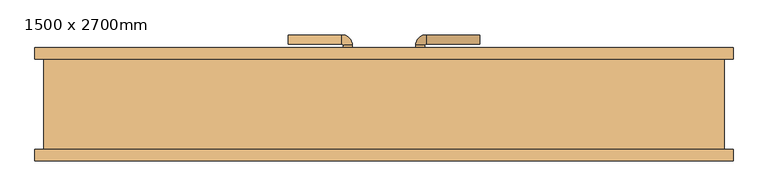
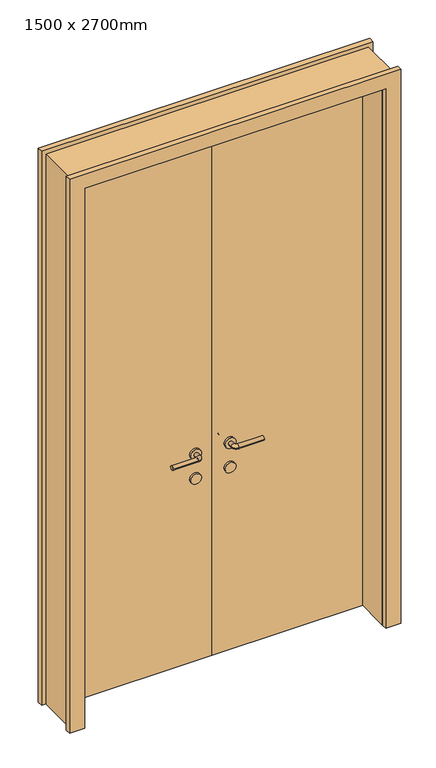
"""IFC4 building model written with IfcOpenShell, lengths in millimetres: door geometry, 双面嵌板木门 1 : 1500 x 2700mm."""

from ifc_helpers import new_model, si_unit, point, frame, frame_2d, origin, origin_with_axes, place, context, project, spatial, polyline, circle_curve, ellipse_curve, trimmed, segment, composite_curve, outline, extrude, source, transform, mapped, element, save
from ifc_brep_helpers import plane_surface, cylinder_surface, revolved_surface, advanced_brep


def door_1500_x_2700mm_f4b82eac(model_context):
    return source(origin(), model_context, "Body", "SolidModel", [
        extrude(outline(composite_curve([segment(trimmed(circle_curve(frame_2d((900.0, 80.0)), 25.0), [point((900.0, 105.0))], [point((900.0, 55.0))], False, "CARTESIAN"), True, "CONTINUOUS"), segment(trimmed(circle_curve(frame_2d((900.0, 80.0)), 25.0), [point((900.0, 55.0))], [point((900.0, 105.0))], False, "CARTESIAN"), True, "CONTINUOUS")], self_intersect=False)), frame((0.0, 100.0, 0.0), z_axis=(0.0, 1.0, 0.0), x_axis=(0.0, 0.0, 1.0)), (0.0, 0.0, 1.0), 10.0),
        extrude(outline(composite_curve([segment(trimmed(circle_curve(frame_2d((900.0, 80.0)), 25.0), [point((900.0, 105.0))], [point((900.0, 55.0))], False, "CARTESIAN"), True, "CONTINUOUS"), segment(trimmed(circle_curve(frame_2d((900.0, 80.0)), 25.0), [point((900.0, 55.0))], [point((900.0, 105.0))], False, "CARTESIAN"), True, "CONTINUOUS")], self_intersect=False)), frame((0.0, 50.0, 0.0), z_axis=(0.0, 1.0, 0.0), x_axis=(0.0, 0.0, 1.0)), (0.0, 0.0, 1.0), 10.0),
        advanced_brep(
        [(70.0, 110.0, 1020.0), (90.0, 110.0, 1020.0), (70.0, 130.6133551, 1020.0), (90.0, 130.6133551, 1020.0), (211.580964, 153.580964, 1020.0), (211.580964, 133.580964, 1020.0), (92.9676089, 133.580964, 1020.0), (92.9676089, 153.580964, 1020.0)],
        [
            (0, 1, circle_curve(frame((80.0, 110.0, 1020.0), z_axis=(0.0, -1.0, 0.0), x_axis=(1.0, 0.0, 0.0)), 10.0)),
            (1, 0, circle_curve(frame((80.0, 110.0, 1020.0), z_axis=(0.0, -1.0, 0.0), x_axis=(1.0, 0.0, 0.0)), 10.0)),
            (0, 2),
            (2, 3, circle_curve(frame((80.0, 130.6133551, 1020.0), z_axis=(0.0, -1.0, 0.0), x_axis=(1.0, 0.0, 0.0)), 10.0)),
            (3, 1),
            (3, 2, circle_curve(frame((80.0, 130.6133551, 1020.0), z_axis=(0.0, -1.0, 0.0), x_axis=(1.0, 0.0, 0.0)), 10.0)),
            (4, 5, circle_curve(frame((211.580964, 143.580964, 1020.0), z_axis=(1.0, 0.0, 0.0), x_axis=(0.0, -1.0, 0.0)), 10.0)),
            (5, 4, circle_curve(frame((211.580964, 143.580964, 1020.0), z_axis=(1.0, 0.0, 0.0), x_axis=(0.0, -1.0, 0.0)), 10.0)),
            (6, 7, circle_curve(frame((92.9676089, 143.580964, 1020.0), z_axis=(-1.0, 0.0, 0.0), x_axis=(0.0, -1.0, 0.0)), 10.0)),
            (7, 2, circle_curve(frame((92.9676089, 130.6133551, 1020.0), z_axis=(0.0, 0.0, 1.0), x_axis=(-1.0, 0.0, 0.0)), 22.9676089)),
            (3, 6, circle_curve(frame((92.9676089, 130.6133551, 1020.0), z_axis=(0.0, 0.0, -1.0), x_axis=(-1.0, 0.0, 0.0)), 2.9676089)),
            (7, 6, circle_curve(frame((92.9676089, 143.580964, 1020.0), z_axis=(-1.0, 0.0, 0.0), x_axis=(0.0, -1.0, 0.0)), 10.0)),
            (6, 5),
            (4, 7),
        ],
        [
            plane_surface(frame((80.0, 110.0, 900.0), z_axis=(0.0, -1.0, 0.0), x_axis=(0.0, 0.0, 1.0))),
            cylinder_surface(frame((80.0, 110.0, 1020.0), z_axis=(0.0, -1.0, 0.0), x_axis=(1.0, 0.0, 0.0)), 10.0),
            plane_surface(frame((211.580964, 143.580964, 900.0), z_axis=(1.0, 0.0, 0.0), x_axis=(0.0, 0.0, 1.0))),
            revolved_surface(trimmed(ellipse_curve(frame((80.0, 130.6133551, 1020.0), z_axis=(0.0, 1.0, 0.0), x_axis=(1.0, 0.0, 0.0)), 10.0, 10.0), [point((70.0, 130.6133551, 1020.0))], [point((90.0, 130.6133551, 1020.0))], True, "CARTESIAN"), (92.9676089, 130.6133551, 900.0), (0.0, 0.0, 1.0)),
            revolved_surface(trimmed(ellipse_curve(frame((80.0, 130.6133551, 1020.0), z_axis=(0.0, 1.0, 0.0), x_axis=(1.0, 0.0, 0.0)), 10.0, 10.0), [point((90.0, 130.6133551, 1020.0))], [point((70.0, 130.6133551, 1020.0))], True, "CARTESIAN"), (92.9676089, 130.6133551, 900.0), (0.0, 0.0, 1.0)),
            cylinder_surface(frame((92.9676089, 143.580964, 1020.0), z_axis=(-1.0, 0.0, 0.0), x_axis=(0.0, -1.0, 0.0)), 10.0),
        ],
        [
            (0, [[1, 2]]),
            (1, [[3, 4, 5, -1]]),
            (1, [[-5, 6, -3, -2]]),
            (2, [[7, 8]]),
            (3, [[9, 10, -6, 11]]),
            (4, [[12, -11, -4, -10]]),
            (5, [[13, -7, 14, -9]]),
            (5, [[-14, -8, -13, -12]]),
        ],
    ),
        extrude(outline(composite_curve([segment(trimmed(circle_curve(frame_2d((1020.0, 80.0)), 25.0), [point((1020.0, 105.0))], [point((1020.0, 55.0))], False, "CARTESIAN"), True, "CONTINUOUS"), segment(trimmed(circle_curve(frame_2d((1020.0, 80.0)), 25.0), [point((1020.0, 55.0))], [point((1020.0, 105.0))], False, "CARTESIAN"), True, "CONTINUOUS")], self_intersect=False)), frame((0.0, 100.0, 0.0), z_axis=(0.0, 1.0, 0.0), x_axis=(0.0, 0.0, 1.0)), (0.0, 0.0, 1.0), 10.0),
        advanced_brep(
        [(90.0, 50.0, 1020.0), (70.0, 50.0, 1020.0), (70.0, 29.386645, 1020.0), (90.0, 29.386645, 1020.0), (211.580964, 26.419036, 1020.0), (211.580964, 6.419036, 1020.0), (92.9676089, 6.419036, 1020.0), (92.9676089, 26.419036, 1020.0)],
        [
            (0, 1, circle_curve(frame((80.0, 50.0, 1020.0), z_axis=(0.0, 1.0, 0.0), x_axis=(-1.0, 0.0, 0.0)), 10.0)),
            (1, 0, circle_curve(frame((80.0, 50.0, 1020.0), z_axis=(0.0, 1.0, 0.0), x_axis=(-1.0, 0.0, 0.0)), 10.0)),
            (1, 2),
            (2, 3, circle_curve(frame((80.0, 29.386645, 1020.0), z_axis=(0.0, 1.0, 0.0), x_axis=(-1.0, 0.0, 0.0)), 10.0)),
            (3, 0),
            (3, 2, circle_curve(frame((80.0, 29.386645, 1020.0), z_axis=(0.0, 1.0, 0.0), x_axis=(-1.0, 0.0, 0.0)), 10.0)),
            (4, 5, circle_curve(frame((211.580964, 16.419036, 1020.0), z_axis=(1.0, 0.0, 0.0), x_axis=(0.0, -1.0, 0.0)), 10.0)),
            (5, 4, circle_curve(frame((211.580964, 16.419036, 1020.0), z_axis=(1.0, 0.0, 0.0), x_axis=(0.0, -1.0, 0.0)), 10.0)),
            (6, 7, circle_curve(frame((92.9676089, 16.419036, 1020.0), z_axis=(-1.0, 0.0, 0.0), x_axis=(0.0, -1.0, 0.0)), 10.0)),
            (7, 3, circle_curve(frame((92.9676089, 29.386645, 1020.0), z_axis=(0.0, 0.0, -1.0), x_axis=(-1.0, 0.0, 0.0)), 2.9676089)),
            (2, 6, circle_curve(frame((92.9676089, 29.386645, 1020.0), z_axis=(0.0, 0.0, 1.0), x_axis=(-1.0, 0.0, 0.0)), 22.9676089)),
            (7, 6, circle_curve(frame((92.9676089, 16.419036, 1020.0), z_axis=(-1.0, 0.0, 0.0), x_axis=(0.0, -1.0, 0.0)), 10.0)),
            (6, 5),
            (4, 7),
        ],
        [
            plane_surface(frame((80.0, 50.0, 900.0), z_axis=(0.0, 1.0, 0.0), x_axis=(0.0, 0.0, 1.0))),
            cylinder_surface(frame((80.0, 50.0, 1020.0), z_axis=(0.0, 1.0, 0.0), x_axis=(-1.0, 0.0, 0.0)), 10.0),
            plane_surface(frame((211.580964, 16.419036, 900.0), z_axis=(1.0, 0.0, 0.0), x_axis=(0.0, 0.0, 1.0))),
            revolved_surface(trimmed(ellipse_curve(frame((80.0, 29.386645, 1020.0), z_axis=(0.0, -1.0, 0.0), x_axis=(-1.0, 0.0, 0.0)), 10.0, 10.0), [point((90.0, 29.386645, 1020.0))], [point((70.0, 29.386645, 1020.0))], True, "CARTESIAN"), (92.9676089, 29.386645, 900.0), (0.0, 0.0, -1.0)),
            revolved_surface(trimmed(ellipse_curve(frame((80.0, 29.386645, 1020.0), z_axis=(0.0, -1.0, 0.0), x_axis=(-1.0, 0.0, 0.0)), 10.0, 10.0), [point((70.0, 29.386645, 1020.0))], [point((90.0, 29.386645, 1020.0))], True, "CARTESIAN"), (92.9676089, 29.386645, 900.0), (0.0, 0.0, -1.0)),
            cylinder_surface(frame((92.9676089, 16.419036, 1020.0), z_axis=(-1.0, 0.0, 0.0), x_axis=(0.0, -1.0, 0.0)), 10.0),
        ],
        [
            (0, [[1, 2]]),
            (1, [[3, 4, 5, -2]]),
            (1, [[-5, 6, -3, -1]]),
            (2, [[7, 8]]),
            (3, [[9, 10, -4, 11]]),
            (4, [[12, -11, -6, -10]]),
            (5, [[13, -7, 14, -9]]),
            (5, [[-14, -8, -13, -12]]),
        ],
    ),
        extrude(outline(composite_curve([segment(trimmed(circle_curve(frame_2d((1020.0, 80.0)), 25.0), [point((1020.0, 105.0))], [point((1020.0, 55.0))], False, "CARTESIAN"), True, "CONTINUOUS"), segment(trimmed(circle_curve(frame_2d((1020.0, 80.0)), 25.0), [point((1020.0, 55.0))], [point((1020.0, 105.0))], False, "CARTESIAN"), True, "CONTINUOUS")], self_intersect=False)), frame((0.0, 50.0, 0.0), z_axis=(0.0, 1.0, 0.0), x_axis=(0.0, 0.0, 1.0)), (0.0, 0.0, 1.0), 10.0),
        extrude(outline(composite_curve([segment(trimmed(circle_curve(frame_2d((900.0, -80.0)), 25.0), [point((900.0, -105.0))], [point((900.0, -55.0))], False, "CARTESIAN"), True, "CONTINUOUS"), segment(trimmed(circle_curve(frame_2d((900.0, -80.0)), 25.0), [point((900.0, -55.0))], [point((900.0, -105.0))], False, "CARTESIAN"), True, "CONTINUOUS")], self_intersect=False)), frame((0.0, 100.0, 0.0), z_axis=(0.0, 1.0, 0.0), x_axis=(0.0, 0.0, 1.0)), (0.0, 0.0, 1.0), 10.0),
        extrude(outline(composite_curve([segment(trimmed(circle_curve(frame_2d((900.0, -80.0)), 25.0), [point((900.0, -105.0))], [point((900.0, -55.0))], False, "CARTESIAN"), True, "CONTINUOUS"), segment(trimmed(circle_curve(frame_2d((900.0, -80.0)), 25.0), [point((900.0, -55.0))], [point((900.0, -105.0))], False, "CARTESIAN"), True, "CONTINUOUS")], self_intersect=False)), frame((0.0, 50.0, 0.0), z_axis=(0.0, 1.0, 0.0), x_axis=(0.0, 0.0, 1.0)), (0.0, 0.0, 1.0), 10.0),
        advanced_brep(
        [(-70.0, 110.0, 1020.0), (-90.0, 110.0, 1020.0), (-90.0, 130.6133551, 1020.0), (-70.0, 130.6133551, 1020.0), (-211.580964, 153.580964, 1020.0), (-211.580964, 133.580964, 1020.0), (-92.9676089, 133.580964, 1020.0), (-92.9676089, 153.580964, 1020.0)],
        [
            (0, 1, circle_curve(frame((-80.0, 110.0, 1020.0), z_axis=(0.0, -1.0, 0.0), x_axis=(-1.0, 0.0, 0.0)), 10.0)),
            (1, 0, circle_curve(frame((-80.0, 110.0, 1020.0), z_axis=(0.0, -1.0, 0.0), x_axis=(-1.0, 0.0, 0.0)), 10.0)),
            (1, 2),
            (2, 3, circle_curve(frame((-80.0, 130.6133551, 1020.0), z_axis=(0.0, -1.0, 0.0), x_axis=(-1.0, 0.0, 0.0)), 10.0)),
            (3, 0),
            (3, 2, circle_curve(frame((-80.0, 130.6133551, 1020.0), z_axis=(0.0, -1.0, 0.0), x_axis=(-1.0, 0.0, 0.0)), 10.0)),
            (4, 5, circle_curve(frame((-211.580964, 143.580964, 1020.0), z_axis=(-1.0, 0.0, 0.0), x_axis=(0.0, -1.0, 0.0)), 10.0)),
            (5, 4, circle_curve(frame((-211.580964, 143.580964, 1020.0), z_axis=(-1.0, 0.0, 0.0), x_axis=(0.0, -1.0, 0.0)), 10.0)),
            (6, 2, circle_curve(frame((-92.9676089, 130.6133551, 1020.0), z_axis=(0.0, 0.0, -1.0), x_axis=(1.0, 0.0, 0.0)), 2.9676089)),
            (3, 7, circle_curve(frame((-92.9676089, 130.6133551, 1020.0), z_axis=(0.0, 0.0, 1.0), x_axis=(1.0, 0.0, 0.0)), 22.9676089)),
            (7, 6, circle_curve(frame((-92.9676089, 143.580964, 1020.0), z_axis=(1.0, 0.0, 0.0), x_axis=(0.0, -1.0, 0.0)), 10.0)),
            (6, 7, circle_curve(frame((-92.9676089, 143.580964, 1020.0), z_axis=(1.0, 0.0, 0.0), x_axis=(0.0, -1.0, 0.0)), 10.0)),
            (7, 4),
            (5, 6),
        ],
        [
            plane_surface(frame((-80.0, 110.0, 900.0), z_axis=(0.0, -1.0, 0.0), x_axis=(0.0, 0.0, 1.0))),
            cylinder_surface(frame((-80.0, 110.0, 1020.0), z_axis=(0.0, -1.0, 0.0), x_axis=(-1.0, 0.0, 0.0)), 10.0),
            plane_surface(frame((-211.580964, 143.580964, 900.0), z_axis=(-1.0, 0.0, 0.0), x_axis=(0.0, 0.0, 1.0))),
            revolved_surface(trimmed(ellipse_curve(frame((-80.0, 130.6133551, 1020.0), z_axis=(0.0, -1.0, 0.0), x_axis=(-1.0, 0.0, 0.0)), 10.0, 10.0), [point((-70.0, 130.6133551, 1020.0))], [point((-90.0, 130.6133551, 1020.0))], True, "CARTESIAN"), (-92.9676089, 130.6133551, 900.0), (0.0, 0.0, 1.0)),
            revolved_surface(trimmed(ellipse_curve(frame((-80.0, 130.6133551, 1020.0), z_axis=(0.0, -1.0, 0.0), x_axis=(-1.0, 0.0, 0.0)), 10.0, 10.0), [point((-90.0, 130.6133551, 1020.0))], [point((-70.0, 130.6133551, 1020.0))], True, "CARTESIAN"), (-92.9676089, 130.6133551, 900.0), (0.0, 0.0, 1.0)),
            cylinder_surface(frame((-92.9676089, 143.580964, 1020.0), z_axis=(1.0, 0.0, 0.0), x_axis=(0.0, -1.0, 0.0)), 10.0),
        ],
        [
            (0, [[1, 2]]),
            (1, [[-2, 3, 4, 5]]),
            (1, [[-1, -5, 6, -3]]),
            (2, [[7, 8]]),
            (3, [[9, -6, 10, 11]]),
            (4, [[-10, -4, -9, 12]]),
            (5, [[-11, 13, -8, 14]]),
            (5, [[-12, -14, -7, -13]]),
        ],
    ),
        extrude(outline(composite_curve([segment(trimmed(circle_curve(frame_2d((1020.0, -80.0)), 25.0), [point((1020.0, -105.0))], [point((1020.0, -55.0))], False, "CARTESIAN"), True, "CONTINUOUS"), segment(trimmed(circle_curve(frame_2d((1020.0, -80.0)), 25.0), [point((1020.0, -55.0))], [point((1020.0, -105.0))], False, "CARTESIAN"), True, "CONTINUOUS")], self_intersect=False)), frame((0.0, 100.0, 0.0), z_axis=(0.0, 1.0, 0.0), x_axis=(0.0, 0.0, 1.0)), (0.0, 0.0, 1.0), 10.0),
        advanced_brep(
        [(-90.0, 50.0, 1020.0), (-70.0, 50.0, 1020.0), (-90.0, 29.386645, 1020.0), (-70.0, 29.386645, 1020.0), (-211.580964, 26.419036, 1020.0), (-211.580964, 6.419036, 1020.0), (-92.9676089, 6.419036, 1020.0), (-92.9676089, 26.419036, 1020.0)],
        [
            (0, 1, circle_curve(frame((-80.0, 50.0, 1020.0), z_axis=(0.0, 1.0, 0.0), x_axis=(1.0, 0.0, 0.0)), 10.0)),
            (1, 0, circle_curve(frame((-80.0, 50.0, 1020.0), z_axis=(0.0, 1.0, 0.0), x_axis=(1.0, 0.0, 0.0)), 10.0)),
            (0, 2),
            (2, 3, circle_curve(frame((-80.0, 29.386645, 1020.0), z_axis=(0.0, 1.0, 0.0), x_axis=(1.0, 0.0, 0.0)), 10.0)),
            (3, 1),
            (3, 2, circle_curve(frame((-80.0, 29.386645, 1020.0), z_axis=(0.0, 1.0, 0.0), x_axis=(1.0, 0.0, 0.0)), 10.0)),
            (4, 5, circle_curve(frame((-211.580964, 16.419036, 1020.0), z_axis=(-1.0, 0.0, 0.0), x_axis=(0.0, -1.0, 0.0)), 10.0)),
            (5, 4, circle_curve(frame((-211.580964, 16.419036, 1020.0), z_axis=(-1.0, 0.0, 0.0), x_axis=(0.0, -1.0, 0.0)), 10.0)),
            (6, 3, circle_curve(frame((-92.9676089, 29.386645, 1020.0), z_axis=(0.0, 0.0, 1.0), x_axis=(1.0, 0.0, 0.0)), 22.9676089)),
            (2, 7, circle_curve(frame((-92.9676089, 29.386645, 1020.0), z_axis=(0.0, 0.0, -1.0), x_axis=(1.0, 0.0, 0.0)), 2.9676089)),
            (7, 6, circle_curve(frame((-92.9676089, 16.419036, 1020.0), z_axis=(1.0, 0.0, 0.0), x_axis=(0.0, -1.0, 0.0)), 10.0)),
            (6, 7, circle_curve(frame((-92.9676089, 16.419036, 1020.0), z_axis=(1.0, 0.0, 0.0), x_axis=(0.0, -1.0, 0.0)), 10.0)),
            (7, 4),
            (5, 6),
        ],
        [
            plane_surface(frame((-80.0, 50.0, 900.0), z_axis=(0.0, 1.0, 0.0), x_axis=(0.0, 0.0, 1.0))),
            cylinder_surface(frame((-80.0, 50.0, 1020.0), z_axis=(0.0, 1.0, 0.0), x_axis=(1.0, 0.0, 0.0)), 10.0),
            plane_surface(frame((-211.580964, 16.419036, 900.0), z_axis=(-1.0, 0.0, 0.0), x_axis=(0.0, 0.0, 1.0))),
            revolved_surface(trimmed(ellipse_curve(frame((-80.0, 29.386645, 1020.0), z_axis=(0.0, 1.0, 0.0), x_axis=(1.0, 0.0, 0.0)), 10.0, 10.0), [point((-90.0, 29.386645, 1020.0))], [point((-70.0, 29.386645, 1020.0))], True, "CARTESIAN"), (-92.9676089, 29.386645, 900.0), (0.0, 0.0, -1.0)),
            revolved_surface(trimmed(ellipse_curve(frame((-80.0, 29.386645, 1020.0), z_axis=(0.0, 1.0, 0.0), x_axis=(1.0, 0.0, 0.0)), 10.0, 10.0), [point((-70.0, 29.386645, 1020.0))], [point((-90.0, 29.386645, 1020.0))], True, "CARTESIAN"), (-92.9676089, 29.386645, 900.0), (0.0, 0.0, -1.0)),
            cylinder_surface(frame((-92.9676089, 16.419036, 1020.0), z_axis=(1.0, 0.0, 0.0), x_axis=(0.0, -1.0, 0.0)), 10.0),
        ],
        [
            (0, [[1, 2]]),
            (1, [[-1, 3, 4, 5]]),
            (1, [[-2, -5, 6, -3]]),
            (2, [[7, 8]]),
            (3, [[9, -4, 10, 11]]),
            (4, [[-10, -6, -9, 12]]),
            (5, [[-11, 13, -8, 14]]),
            (5, [[-12, -14, -7, -13]]),
        ],
    ),
        extrude(outline(composite_curve([segment(trimmed(circle_curve(frame_2d((1020.0, -80.0)), 25.0), [point((1020.0, -105.0))], [point((1020.0, -55.0))], False, "CARTESIAN"), True, "CONTINUOUS"), segment(trimmed(circle_curve(frame_2d((1020.0, -80.0)), 25.0), [point((1020.0, -55.0))], [point((1020.0, -105.0))], False, "CARTESIAN"), True, "CONTINUOUS")], self_intersect=False)), frame((0.0, 50.0, 0.0), z_axis=(0.0, 1.0, 0.0), x_axis=(0.0, 0.0, 1.0)), (0.0, 0.0, 1.0), 10.0),
        extrude(outline(polyline([(0.0, 770.0), (2720.0, 770.0), (2720.0, -770.0), (0.0, -770.0), (0.0, -700.0), (2650.0, -700.0), (2650.0, 700.0), (0.0, 700.0), (0.0, 770.0)])), frame((0.0, 100.0, 0.0), z_axis=(0.0, 1.0, 0.0), x_axis=(0.0, 0.0, 1.0)), (0.0, 0.0, 1.0), 25.0),
        extrude(outline(polyline([(2720.0, 770.0), (2720.0, -770.0), (0.0, -770.0), (0.0, -700.0), (2650.0, -700.0), (2650.0, 700.0), (0.0, 700.0), (0.0, 770.0), (2720.0, 770.0)])), frame((0.0, -125.0, 0.0), z_axis=(0.0, 1.0, 0.0), x_axis=(0.0, 0.0, 1.0)), (0.0, 0.0, 1.0), 25.0),
        extrude(outline(polyline([(700.0, 60.0), (0.0, 60.0), (0.0, 100.0), (700.0, 100.0), (700.0, 60.0)])), origin_with_axes(), (0.0, 0.0, 1.0), 2650.0),
        extrude(outline(polyline([(0.0, 60.0), (-700.0, 60.0), (-700.0, 100.0), (0.0, 100.0), (0.0, 60.0)])), origin_with_axes(), (0.0, 0.0, 1.0), 2650.0),
        extrude(outline(polyline([(2700.0, -750.0), (0.0, -750.0), (0.0, -700.0), (2650.0, -700.0), (2650.0, 700.0), (0.0, 700.0), (0.0, 750.0), (2700.0, 750.0), (2700.0, -750.0)])), frame((0.0, -100.0, 0.0), z_axis=(0.0, 1.0, 0.0), x_axis=(0.0, 0.0, 1.0)), (0.0, 0.0, 1.0), 200.0),
    ])


if __name__ == "__main__":
    model = new_model("IFC4")
    model_context = context("Model", 3, world=origin())
    ifc_project = project(units=[si_unit("LENGTHUNIT", "METRE", prefix="MILLI")], contexts=[model_context])
    site = spatial("IfcSite", under=ifc_project)
    building = spatial("IfcBuilding", under=site)
    placement = place(None, origin())
    door_1500_x_2700mm_shape = door_1500_x_2700mm_f4b82eac(model_context)
    element("IfcDoor", 1, ObjectType="双面嵌板木门 1 : 1500 x 2700mm", at=placement, inside=building, context=model_context, shape_type="MappedRepresentation", body=[
        mapped(door_1500_x_2700mm_shape, transform((0.0, 0.0, 0.0), x_axis=(1.0, 0.0, 0.0), y_axis=(0.0, 1.0, 0.0), z_axis=(0.0, 0.0, 1.0))),
    ])
    save(model, "model.ifc")
